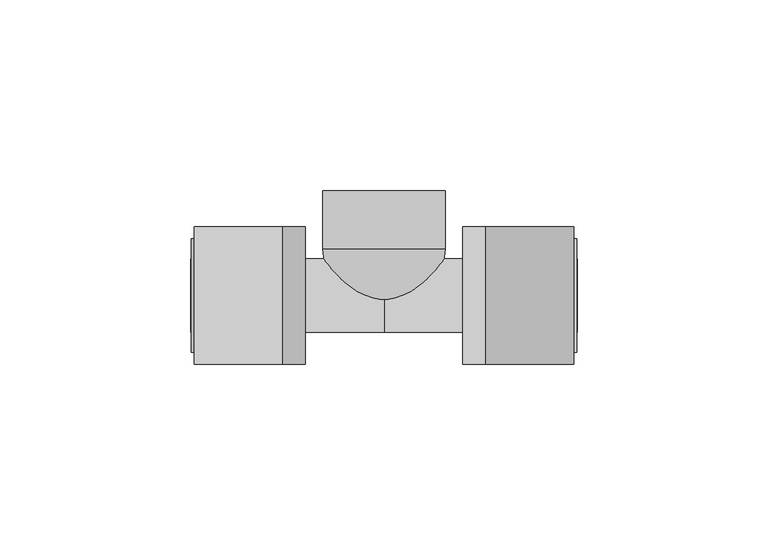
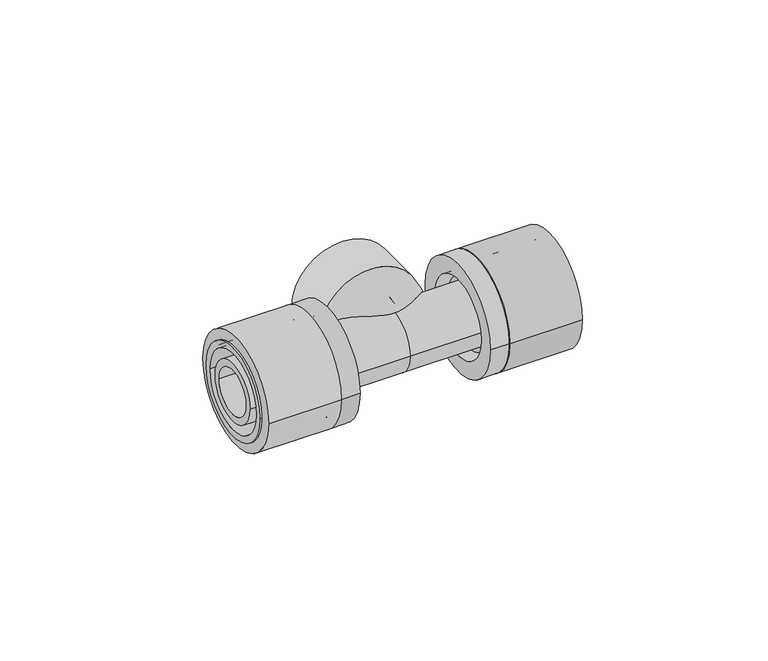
"""IFC4 building model written with IfcOpenShell, lengths in millimetres: pipe fitting geometry, FASTLOC_T-piece internal thread EX+ : FSL T thread EX+ AT."""

import ifcopenshell
import ifcopenshell.guid

model = None  # the IFC model being written
_history = None  # IfcOwnerHistory: only IFC2X3 demands one
_inside = {}  # id of a spatial element -> (the spatial element, [elements in it])
_under = {}  # id of a project, library or spatial element -> (it, [spatial elements below it])
_declared = {}  # id of a project -> (the project, [libraries it declares])
_typed = {}  # id of a type object -> (the type object, [elements of that type])
_made_of = {}  # id of a material, layer set ... -> (it, [elements and type objects made of it])


def new_model(schema):
    """Start an empty IFC model of exactly this schema.

    Asked for "IFC4X3", IfcOpenShell would pick the latest addendum, in which some entities
    have other attributes; the version numbers below select the first issue.
    IFC2X3 requires an IfcOwnerHistory on every rooted entity: one is made here for all.
    """
    global model, _history
    if schema == "IFC4X3":
        model = ifcopenshell.file(schema_version=(4, 3, 0, 0))
    else:
        model = ifcopenshell.file(schema=schema)
    _inside.clear()
    _under.clear()
    _declared.clear()
    _typed.clear()
    _made_of.clear()
    _history = None
    if model.schema == "IFC2X3":
        org = make("IfcOrganization", Name="unknown")
        user = make(
            "IfcPersonAndOrganization",
            ThePerson=make("IfcPerson", FamilyName="unknown"),
            TheOrganization=org,
        )
        app = make(
            "IfcApplication",
            ApplicationDeveloper=org,
            Version="unknown",
            ApplicationFullName="unknown",
            ApplicationIdentifier="unknown",
        )
        _history = make(
            "IfcOwnerHistory",
            OwningUser=user,
            OwningApplication=app,
            ChangeAction="ADDED",
            CreationDate=0,
        )
    return model


def make(cls, **values):
    """One entity of the class cls with the attributes given. An attribute that is None is left unset."""
    return model.create_entity(
        cls, **{name: value for name, value in values.items() if value is not None}
    )


def rooted(cls, **values):
    """An entity with a GlobalId (a new one), such as an element, a storey or a relation."""
    return make(cls, GlobalId=ifcopenshell.guid.new(), OwnerHistory=_history, **values)


def si_unit(unit_type, name, prefix=None):
    """IfcSIUnit, for example si_unit("LENGTHUNIT", "METRE", prefix="MILLI")."""
    return make("IfcSIUnit", UnitType=unit_type, Prefix=prefix, Name=name)


def assignment(units):
    """IfcUnitAssignment: the units of a project."""
    return None if units is None else make("IfcUnitAssignment", Units=units)


def point(xyz):
    """IfcCartesianPoint."""
    return None if xyz is None else make("IfcCartesianPoint", Coordinates=xyz)


def direction(xyz):
    """IfcDirection."""
    return None if xyz is None else make("IfcDirection", DirectionRatios=xyz)


def frame(location, z_axis=None, x_axis=None):
    """IfcAxis2Placement3D, a coordinate frame: its origin and axes. An axis left out is left unset."""
    return make(
        "IfcAxis2Placement3D",
        Location=point(location),
        Axis=direction(z_axis),
        RefDirection=direction(x_axis),
    )


def frame_2d(location, x_axis=None):
    """IfcAxis2Placement2D, a coordinate frame in the plane: its origin and x axis."""
    return make(
        "IfcAxis2Placement2D", Location=point(location), RefDirection=direction(x_axis)
    )


def origin():
    """The frame at (0, 0, 0) with its axes left unset."""
    return frame((0.0, 0.0, 0.0))


def origin_2d():
    """The frame at (0, 0) in the plane with its x axis left unset."""
    return frame_2d((0.0, 0.0))


def place(relative_to, where):
    """IfcLocalPlacement: puts the frame where relative to a parent placement (None: the world)."""
    return make(
        "IfcLocalPlacement", PlacementRelTo=relative_to, RelativePlacement=where
    )


def context(
    kind, dimensions, precision=None, world=None, true_north=None, identifier=None
):
    """IfcGeometricRepresentationContext, for example the 3D "Model" context."""
    return make(
        "IfcGeometricRepresentationContext",
        ContextIdentifier=identifier,
        ContextType=kind,
        CoordinateSpaceDimension=dimensions,
        Precision=precision,
        WorldCoordinateSystem=world,
        TrueNorth=true_north,
    )


def project(units=None, contexts=None):
    """IfcProject with its units and contexts."""
    return rooted(
        "IfcProject",
        Name="project",
        RepresentationContexts=contexts,
        UnitsInContext=assignment(units),
    )


def spatial(cls, under=None, at=None, **own):
    """A site, building, storey or space (cls), placed at a placement, below another one or the project."""
    s = rooted(cls, ObjectPlacement=at, **own)
    if under is not None:
        _under.setdefault(under.id(), (under, []))[1].append(s)
    return s


def polyline(points):
    """IfcPolyline through the points."""
    return make("IfcPolyline", Points=[point(p) for p in points])


def circle_curve(where, radius):
    """IfcCircle in the frame where."""
    return make("IfcCircle", Position=where, Radius=radius)


def ellipse_curve(where, semi_axis1, semi_axis2):
    """IfcEllipse in the frame where."""
    return make(
        "IfcEllipse", Position=where, SemiAxis1=semi_axis1, SemiAxis2=semi_axis2
    )


def trimmed(basis, trim1, trim2, sense, master):
    """IfcTrimmedCurve: the piece of a basis curve between two trims."""
    return make(
        "IfcTrimmedCurve",
        BasisCurve=basis,
        Trim1=trim1,
        Trim2=trim2,
        SenseAgreement=sense,
        MasterRepresentation=master,
    )


def segment(curve, same_sense, transition):
    """IfcCompositeCurveSegment."""
    return make(
        "IfcCompositeCurveSegment",
        Transition=transition,
        SameSense=same_sense,
        ParentCurve=curve,
    )


def composite_curve(segments, self_intersect=None):
    """IfcCompositeCurve: segments joined end to end."""
    return make("IfcCompositeCurve", Segments=segments, SelfIntersect=self_intersect)


def outline(outer, holes=None, kind="AREA"):
    """IfcArbitraryClosedProfileDef: a profile drawn as a closed curve; with holes, ...WithVoids."""
    if holes is None:
        return make("IfcArbitraryClosedProfileDef", ProfileType=kind, OuterCurve=outer)
    return make(
        "IfcArbitraryProfileDefWithVoids",
        ProfileType=kind,
        OuterCurve=outer,
        InnerCurves=holes,
    )


def extrude(swept, where, along, depth):
    """IfcExtrudedAreaSolid: the profile swept, set in the frame where, extruded along a direction by depth."""
    return make(
        "IfcExtrudedAreaSolid",
        SweptArea=swept,
        Position=where,
        ExtrudedDirection=direction(along),
        Depth=depth,
    )


def shape(context_of_items, identifier, shape_type, items):
    """IfcShapeRepresentation: the items that make up one representation, for example the "Body"."""
    return make(
        "IfcShapeRepresentation",
        ContextOfItems=context_of_items,
        RepresentationIdentifier=identifier,
        RepresentationType=shape_type,
        Items=items,
    )


def source(mapping_origin, context_of_items, identifier, shape_type, items):
    """IfcRepresentationMap: a shape defined once, which mapped items show again and again."""
    return make(
        "IfcRepresentationMap",
        MappingOrigin=mapping_origin,
        MappedRepresentation=shape(context_of_items, identifier, shape_type, items),
    )


def transform(
    local_origin,
    x_axis=None,
    y_axis=None,
    z_axis=None,
    scale=None,
    scale2=None,
    scale3=None,
    uniform=True,
):
    """IfcCartesianTransformationOperator3D, or its non-uniform kind. x_axis, y_axis, z_axis: its Axis1, 2, 3."""
    if uniform:
        return make(
            "IfcCartesianTransformationOperator3D",
            Axis1=direction(x_axis),
            Axis2=direction(y_axis),
            LocalOrigin=point(local_origin),
            Scale=scale,
            Axis3=direction(z_axis),
        )
    return make(
        "IfcCartesianTransformationOperator3DnonUniform",
        Axis1=direction(x_axis),
        Axis2=direction(y_axis),
        LocalOrigin=point(local_origin),
        Scale=scale,
        Axis3=direction(z_axis),
        Scale2=scale2,
        Scale3=scale3,
    )


def mapped(mapping_source, mapping_target):
    """IfcMappedItem: shows the shape of a source again, moved by a transform."""
    return make(
        "IfcMappedItem", MappingSource=mapping_source, MappingTarget=mapping_target
    )


def made_of(thing, what):
    """Note that an element or type object is made of a material, layer set ...; save() writes the relation."""
    if what is not None:
        _made_of.setdefault(what.id(), (what, []))[1].append(thing)
    return thing


def element(
    cls,
    number,
    at=None,
    inside=None,
    cuts=None,
    type_object=None,
    material=None,
    context=None,
    identifier="Body",
    shape_type=None,
    held_by="IfcProductDefinitionShape",
    body=None,
    shapes=None,
    **own,
):
    """One element of the class cls, such as IfcWall. Its Tag is "e" and its number.

    at: its placement. inside: the storey or other place that contains it. cuts: it is an
    opening in that element (IfcRelVoidsElement). A single representation is given by context,
    identifier, shape_type and body (its items); several are given by shapes. held_by: the class
    of the entity that holds the representations. save() writes the other relations.
    """
    e = rooted(cls, Tag="e%d" % number, ObjectPlacement=at, **own)
    if body is not None:
        shapes = [shape(context, identifier, shape_type, body)]
    if shapes is not None:
        e.Representation = make(held_by, Representations=shapes)
    if inside is not None:
        _inside.setdefault(inside.id(), (inside, []))[1].append(e)
    if cuts is not None:
        rooted(
            "IfcRelVoidsElement", RelatingBuildingElement=cuts, RelatedOpeningElement=e
        )
    if type_object is not None:
        _typed.setdefault(type_object.id(), (type_object, []))[1].append(e)
    return made_of(e, material)


def aggregate(whole, parts):
    """IfcRelAggregates: a whole, such as a stair, and the parts it consists of."""
    return rooted("IfcRelAggregates", RelatingObject=whole, RelatedObjects=parts)


def save(model, path):
    """Write the relations noted so far, then the file.

    IfcRelAggregates (storeys below a building ...), IfcRelContainedInSpatialStructure (elements
    in a storey), IfcRelDefinesByType, IfcRelAssociatesMaterial and IfcRelDeclares: one each for
    every whole, place, type object, material and project.
    """
    for whole, parts in _under.values():
        aggregate(whole, parts)
    for where, things in _inside.values():
        rooted(
            "IfcRelContainedInSpatialStructure",
            RelatedElements=things,
            RelatingStructure=where,
        )
    for kind, things in _typed.values():
        rooted("IfcRelDefinesByType", RelatedObjects=things, RelatingType=kind)
    for what, things in _made_of.values():
        rooted("IfcRelAssociatesMaterial", RelatedObjects=things, RelatingMaterial=what)
    for by, libraries in _declared.values():
        rooted("IfcRelDeclares", RelatingContext=by, RelatedDefinitions=libraries)
    model.write(path)


def plane_surface(at):
    """IfcPlane: the flat surface through the origin of the frame at, square to its z axis."""
    return make("IfcPlane", Position=at)


def cylinder_surface(at, radius):
    """IfcCylindricalSurface: all points at the distance radius from the z axis of the frame at."""
    return make("IfcCylindricalSurface", Position=at, Radius=radius)


def revolved_surface(curve, axis_point, axis_direction):
    """IfcSurfaceOfRevolution: the curve turned about the line through axis_point along axis_direction."""
    return make(
        "IfcSurfaceOfRevolution",
        SweptCurve=make("IfcArbitraryOpenProfileDef", ProfileType="CURVE", Curve=curve),
        AxisPosition=make("IfcAxis1Placement", Location=point(axis_point), Axis=direction(axis_direction)),
    )


def advanced_brep(points, edges, surfaces, faces):
    """IfcAdvancedBrep: a solid bounded by faces that lie on surfaces and meet in shared edges.

    An edge is (start, end): straight between two places in points (the first is 0);
    or (start, end, curve); or (start, end, curve, False) where it runs against its curve.
    A face is (place in surfaces, loops), or (place, loops, False) where it looks against
    its surface's normal. A loop lists edges by number (the first is 1), with a minus sign
    where the edge is run from its end to its start. The first loop is the outer one.
    """
    corners = [point(p) for p in points]
    vertices = [make("IfcVertexPoint", VertexGeometry=c) for c in corners]
    made = []
    for start, end, *more in edges:
        made.append(
            make(
                "IfcEdgeCurve",
                EdgeStart=vertices[start],
                EdgeEnd=vertices[end],
                EdgeGeometry=more[0] if more else make("IfcPolyline", Points=[corners[start], corners[end]]),
                SameSense=more[1] if len(more) > 1 else True,
            )
        )
    hull = []
    for where, loops, *sense in faces:
        bounds = []
        for j, loop in enumerate(loops):
            ring = [make("IfcOrientedEdge", EdgeElement=made[abs(k) - 1], Orientation=k > 0) for k in loop]
            bounds.append(
                make(
                    "IfcFaceOuterBound" if j == 0 else "IfcFaceBound",
                    Bound=make("IfcEdgeLoop", EdgeList=ring),
                    Orientation=True,
                )
            )
        hull.append(make("IfcAdvancedFace", Bounds=bounds, FaceSurface=surfaces[where], SameSense=sense[0] if sense else True))
    return make("IfcAdvancedBrep", Outer=make("IfcClosedShell", CfsFaces=hull))


def pipe_fitting_688652c5(model_context):
    return source(origin(), model_context, "Body", "SolidModel", [
        extrude(outline(composite_curve([segment(trimmed(circle_curve(origin_2d(), 18.0), [point((-18.0, 0.0))], [point((18.0, 0.0))], False, "CARTESIAN"), True, "CONTINUOUS"), segment(trimmed(circle_curve(origin_2d(), 18.0), [point((18.0, 0.0))], [point((-18.0, 0.0))], False, "CARTESIAN"), True, "CONTINUOUS")], self_intersect=False), holes=[composite_curve([segment(trimmed(circle_curve(origin_2d(), 13.5), [point((-13.5, 0.0))], [point((13.5, 0.0))], True, "CARTESIAN"), True, "CONTINUOUS"), segment(trimmed(circle_curve(origin_2d(), 13.5), [point((13.5, 0.0))], [point((-13.5, 0.0))], True, "CARTESIAN"), True, "CONTINUOUS")], self_intersect=False)]), frame((26.7, 0.0, 0.0), z_axis=(1.0, 0.0, 0.0), x_axis=(0.0, 1.0, 0.0)), (0.0, 0.0, 1.0), 23.0),
        advanced_brep(
        [(26.7, 18.0, 0.0), (26.7, -18.0, 0.0), (20.7, -18.0, 0.0), (20.7, 18.0, 0.0), (50.5, 14.85, 0.0), (50.5, -14.85, 0.0), (26.7, -14.85, 0.0), (26.7, 14.85, 0.0), (20.7, 12.65, 0.0), (20.7, -12.65, 0.0), (50.5, -12.65, 0.0), (50.5, 12.65, 0.0)],
        [
            (0, 1, circle_curve(frame((26.7, 0.0, 0.0), z_axis=(-1.0, 0.0, 0.0), x_axis=(0.0, -1.0, 0.0)), 18.0)),
            (1, 2),
            (2, 3, circle_curve(frame((20.7, 0.0, 0.0), z_axis=(1.0, 0.0, 0.0), x_axis=(0.0, -1.0, 0.0)), 18.0)),
            (3, 0),
            (4, 5, circle_curve(frame((50.5, 0.0, 0.0), z_axis=(-1.0, 0.0, 0.0), x_axis=(0.0, -1.0, 0.0)), 14.85)),
            (5, 6),
            (6, 7, circle_curve(frame((26.7, 0.0, 0.0), z_axis=(1.0, 0.0, 0.0), x_axis=(0.0, -1.0, 0.0)), 14.85)),
            (7, 4),
            (8, 9, circle_curve(frame((20.7, 0.0, 0.0), z_axis=(-1.0, 0.0, 0.0), x_axis=(0.0, -1.0, 0.0)), 12.65)),
            (9, 10),
            (10, 11, circle_curve(frame((50.5, 0.0, 0.0), z_axis=(1.0, 0.0, 0.0), x_axis=(0.0, -1.0, 0.0)), 12.65)),
            (11, 8),
            (1, 0, circle_curve(frame((26.7, 0.0, 0.0), z_axis=(-1.0, 0.0, 0.0), x_axis=(0.0, 1.0, 0.0)), 18.0)),
            (3, 2, circle_curve(frame((20.7, 0.0, 0.0), z_axis=(1.0, 0.0, 0.0), x_axis=(0.0, 1.0, 0.0)), 18.0)),
            (6, 7, circle_curve(frame((26.7, 0.0, 0.0), z_axis=(-1.0, 0.0, 0.0), x_axis=(0.0, 1.0, 0.0)), 14.85)),
            (5, 4, circle_curve(frame((50.5, 0.0, 0.0), z_axis=(-1.0, 0.0, 0.0), x_axis=(0.0, 1.0, 0.0)), 14.85)),
            (10, 11, circle_curve(frame((50.5, 0.0, 0.0), z_axis=(-1.0, 0.0, 0.0), x_axis=(0.0, 1.0, 0.0)), 12.65)),
            (9, 8, circle_curve(frame((20.7, 0.0, 0.0), z_axis=(-1.0, 0.0, 0.0), x_axis=(0.0, 1.0, 0.0)), 12.65)),
        ],
        [
            cylinder_surface(frame((20.7, 0.0, 0.0), z_axis=(1.0, 0.0, 0.0), x_axis=(0.0, -1.0, 0.0)), 18.0),
            cylinder_surface(frame((20.7, 0.0, 0.0), z_axis=(1.0, 0.0, 0.0), x_axis=(0.0, -1.0, 0.0)), 14.85),
            revolved_surface(polyline([(50.5, -12.65, 0.0), (20.7, -12.65, 0.0)]), (20.7, 0.0, 0.0), (1.0, 0.0, 0.0)),
            cylinder_surface(frame((20.7, 0.0, 0.0), z_axis=(1.0, 0.0, 0.0), x_axis=(0.0, 1.0, 0.0)), 18.0),
            plane_surface(frame((26.7, 0.0, 0.0), z_axis=(1.0, 0.0, 0.0), x_axis=(0.0, 1.0, 0.0))),
            cylinder_surface(frame((20.7, 0.0, 0.0), z_axis=(1.0, 0.0, 0.0), x_axis=(0.0, 1.0, 0.0)), 14.85),
            plane_surface(frame((50.5, 0.0, 0.0), z_axis=(1.0, 0.0, 0.0), x_axis=(0.0, 1.0, 0.0))),
            revolved_surface(polyline([(50.5, 12.65, 0.0), (20.7, 12.65, 0.0)]), (20.7, 0.0, 0.0), (1.0, 0.0, 0.0)),
            plane_surface(frame((20.7, 0.0, 0.0), z_axis=(-1.0, 0.0, 0.0), x_axis=(0.0, 1.0, 0.0))),
        ],
        [
            (0, [[1, 2, 3, 4]]),
            (1, [[5, 6, 7, 8]]),
            (2, [[9, 10, 11, 12]]),
            (3, [[13, -4, 14, -2]]),
            (4, [[-13, -1], [15, -7]]),
            (5, [[16, -8, -15, -6]]),
            (6, [[-16, -5], [17, -11]]),
            (7, [[18, -12, -17, -10]]),
            (8, [[-14, -3], [-18, -9]]),
        ],
    ),
        extrude(outline(composite_curve([segment(trimmed(circle_curve(origin_2d(), 18.0), [point((18.0, 0.0))], [point((-18.0, 0.0))], False, "CARTESIAN"), True, "CONTINUOUS"), segment(trimmed(circle_curve(origin_2d(), 18.0), [point((-18.0, 0.0))], [point((18.0, 0.0))], False, "CARTESIAN"), True, "CONTINUOUS")], self_intersect=False), holes=[composite_curve([segment(trimmed(circle_curve(origin_2d(), 13.5), [point((13.5, 0.0))], [point((-13.5, 0.0))], True, "CARTESIAN"), True, "CONTINUOUS"), segment(trimmed(circle_curve(origin_2d(), 13.5), [point((-13.5, 0.0))], [point((13.5, 0.0))], True, "CARTESIAN"), True, "CONTINUOUS")], self_intersect=False)]), frame((-49.7, 0.0, 0.0), z_axis=(1.0, 0.0, 0.0), x_axis=(0.0, 1.0, 0.0)), (0.0, 0.0, 1.0), 23.0),
        advanced_brep(
        [(-26.7, -18.0, 0.0), (-26.7, 18.0, 0.0), (-20.7, 18.0, 0.0), (-20.7, -18.0, 0.0), (-50.5, -14.85, 0.0), (-50.5, 14.85, 0.0), (-26.7, 14.85, 0.0), (-26.7, -14.85, 0.0), (-20.7, -12.65, 0.0), (-20.7, 12.65, 0.0), (-50.5, 12.65, 0.0), (-50.5, -12.65, 0.0)],
        [
            (0, 1, circle_curve(frame((-26.7, 0.0, 0.0), z_axis=(1.0, 0.0, 0.0), x_axis=(0.0, 1.0, 0.0)), 18.0)),
            (1, 2),
            (2, 3, circle_curve(frame((-20.7, 0.0, 0.0), z_axis=(-1.0, 0.0, 0.0), x_axis=(0.0, 1.0, 0.0)), 18.0)),
            (3, 0),
            (4, 5, circle_curve(frame((-50.5, 0.0, 0.0), z_axis=(1.0, 0.0, 0.0), x_axis=(0.0, 1.0, 0.0)), 14.85)),
            (5, 6),
            (6, 7, circle_curve(frame((-26.7, 0.0, 0.0), z_axis=(-1.0, 0.0, 0.0), x_axis=(0.0, 1.0, 0.0)), 14.85)),
            (7, 4),
            (8, 9, circle_curve(frame((-20.7, 0.0, 0.0), z_axis=(1.0, 0.0, 0.0), x_axis=(0.0, 1.0, 0.0)), 12.65)),
            (9, 10),
            (10, 11, circle_curve(frame((-50.5, 0.0, 0.0), z_axis=(-1.0, 0.0, 0.0), x_axis=(0.0, 1.0, 0.0)), 12.65)),
            (11, 8),
            (1, 0, circle_curve(frame((-26.7, 0.0, 0.0), z_axis=(1.0, 0.0, 0.0), x_axis=(0.0, -1.0, 0.0)), 18.0)),
            (3, 2, circle_curve(frame((-20.7, 0.0, 0.0), z_axis=(-1.0, 0.0, 0.0), x_axis=(0.0, -1.0, 0.0)), 18.0)),
            (6, 7, circle_curve(frame((-26.7, 0.0, 0.0), z_axis=(1.0, 0.0, 0.0), x_axis=(0.0, -1.0, 0.0)), 14.85)),
            (5, 4, circle_curve(frame((-50.5, 0.0, 0.0), z_axis=(1.0, 0.0, 0.0), x_axis=(0.0, -1.0, 0.0)), 14.85)),
            (10, 11, circle_curve(frame((-50.5, 0.0, 0.0), z_axis=(1.0, 0.0, 0.0), x_axis=(0.0, -1.0, 0.0)), 12.65)),
            (9, 8, circle_curve(frame((-20.7, 0.0, 0.0), z_axis=(1.0, 0.0, 0.0), x_axis=(0.0, -1.0, 0.0)), 12.65)),
        ],
        [
            cylinder_surface(frame((-20.7, 0.0, 0.0), z_axis=(-1.0, 0.0, 0.0), x_axis=(0.0, 1.0, 0.0)), 18.0),
            cylinder_surface(frame((-20.7, 0.0, 0.0), z_axis=(-1.0, 0.0, 0.0), x_axis=(0.0, 1.0, 0.0)), 14.85),
            revolved_surface(polyline([(-50.5, 12.65, 0.0), (-20.7, 12.65, 0.0)]), (-20.7, 0.0, 0.0), (-1.0, 0.0, 0.0)),
            cylinder_surface(frame((-20.7, 0.0, 0.0), z_axis=(-1.0, 0.0, 0.0), x_axis=(0.0, -1.0, 0.0)), 18.0),
            plane_surface(frame((-26.7, 0.0, 0.0), z_axis=(-1.0, 0.0, 0.0), x_axis=(0.0, -1.0, 0.0))),
            cylinder_surface(frame((-20.7, 0.0, 0.0), z_axis=(-1.0, 0.0, 0.0), x_axis=(0.0, -1.0, 0.0)), 14.85),
            plane_surface(frame((-50.5, 0.0, 0.0), z_axis=(-1.0, 0.0, 0.0), x_axis=(0.0, -1.0, 0.0))),
            revolved_surface(polyline([(-50.5, -12.65, 0.0), (-20.7, -12.65, 0.0)]), (-20.7, 0.0, 0.0), (-1.0, 0.0, 0.0)),
            plane_surface(frame((-20.7, 0.0, 0.0), z_axis=(1.0, 0.0, 0.0), x_axis=(0.0, -1.0, 0.0))),
        ],
        [
            (0, [[1, 2, 3, 4]]),
            (1, [[5, 6, 7, 8]]),
            (2, [[9, 10, 11, 12]]),
            (3, [[13, -4, 14, -2]]),
            (4, [[-13, -1], [15, -7]]),
            (5, [[16, -8, -15, -6]]),
            (6, [[-16, -5], [17, -11]]),
            (7, [[18, -12, -17, -10]]),
            (8, [[-14, -3], [-18, -9]]),
        ],
    ),
        advanced_brep(
        [(0.5, -3.7921856, 0.0), (-0.5, -3.7921856, 0.0), (-16.0, 12.2, 0.0), (16.0, 12.2, 0.0), (0.5, 4.7166852, 0.0), (-0.5, 4.7166852, 0.0), (7.5, 12.2, 0.0), (-7.5, 12.2, 0.0), (7.5, 27.5, 0.0), (-7.5, 27.5, 0.0), (-16.0, 27.5, 0.0), (16.0, 27.5, 0.0)],
        [
            (0, 1, circle_curve(frame((0.0, -3.7921856, 0.0), z_axis=(0.0, 1.0, 0.0), x_axis=(-1.0, 0.0, 0.0)), 0.5)),
            (1, 2, circle_curve(frame((0.0, 12.2, 0.0), z_axis=(0.0, 0.0, -1.0), x_axis=(0.0, 1.0, 0.0)), 16.0)),
            (2, 3, circle_curve(frame((0.0, 12.2, 0.0), z_axis=(0.0, -1.0, 0.0), x_axis=(-1.0, 0.0, 0.0)), 16.0)),
            (3, 0, circle_curve(frame((0.0, 12.2, 0.0), z_axis=(0.0, 0.0, -1.0), x_axis=(0.0, 1.0, 0.0)), 16.0)),
            (4, 5, circle_curve(frame((0.0, 4.7166852, 0.0), z_axis=(0.0, 1.0, 0.0), x_axis=(-1.0, 0.0, 0.0)), 0.5)),
            (5, 1),
            (0, 4),
            (6, 7, circle_curve(frame((0.0, 12.2, 0.0), z_axis=(0.0, 1.0, 0.0), x_axis=(-1.0, 0.0, 0.0)), 7.5)),
            (7, 5, circle_curve(frame((0.0, 12.2, 0.0), z_axis=(0.0, 0.0, 1.0), x_axis=(0.0, 1.0, 0.0)), 7.5)),
            (4, 6, circle_curve(frame((0.0, 12.2, 0.0), z_axis=(0.0, 0.0, 1.0), x_axis=(0.0, 1.0, 0.0)), 7.5)),
            (8, 9, circle_curve(frame((0.0, 27.5, 0.0), z_axis=(0.0, 1.0, 0.0), x_axis=(-1.0, 0.0, 0.0)), 7.5)),
            (9, 7),
            (6, 8),
            (2, 10),
            (10, 11, circle_curve(frame((0.0, 27.5, 0.0), z_axis=(0.0, -1.0, 0.0), x_axis=(-1.0, 0.0, 0.0)), 16.0)),
            (11, 3),
            (1, 0, circle_curve(frame((0.0, -3.7921856, 0.0), z_axis=(0.0, 1.0, 0.0), x_axis=(1.0, 0.0, 0.0)), 0.5)),
            (3, 2, circle_curve(frame((0.0, 12.2, 0.0), z_axis=(0.0, -1.0, 0.0), x_axis=(1.0, 0.0, 0.0)), 16.0)),
            (5, 4, circle_curve(frame((0.0, 4.7166852, 0.0), z_axis=(0.0, 1.0, 0.0), x_axis=(1.0, 0.0, 0.0)), 0.5)),
            (7, 6, circle_curve(frame((0.0, 12.2, 0.0), z_axis=(0.0, 1.0, 0.0), x_axis=(1.0, 0.0, 0.0)), 7.5)),
            (9, 8, circle_curve(frame((0.0, 27.5, 0.0), z_axis=(0.0, 1.0, 0.0), x_axis=(1.0, 0.0, 0.0)), 7.5)),
            (10, 11, circle_curve(frame((0.0, 27.5, 0.0), z_axis=(0.0, 1.0, 0.0), x_axis=(1.0, 0.0, 0.0)), 16.0)),
        ],
        [
            revolved_surface(trimmed(ellipse_curve(frame((0.0, 12.2, 0.0), z_axis=(0.0, 0.0, 1.0), x_axis=(0.0, 1.0, 0.0)), 16.0, 16.0), [point((-16.0, 12.2, 0.0))], [point((-0.5, -3.7921856, 0.0))], True, "CARTESIAN"), (0.0, 0.0, 0.0), (0.0, -1.0, 0.0)),
            revolved_surface(polyline([(-0.5, -3.7921856, 0.0), (-0.5, 4.7166852, 0.0)]), (0.0, 0.0, 0.0), (0.0, -1.0, 0.0)),
            revolved_surface(trimmed(ellipse_curve(frame((0.0, 12.2, 0.0), z_axis=(0.0, 0.0, -1.0), x_axis=(0.0, 1.0, 0.0)), 7.5, 7.5), [point((-0.5, 4.7166852, 0.0))], [point((-7.5, 12.2, 0.0))], True, "CARTESIAN"), (0.0, 0.0, 0.0), (0.0, -1.0, 0.0)),
            revolved_surface(polyline([(-7.5, 12.2, 0.0), (-7.5, 27.5, 0.0)]), (0.0, 0.0, 0.0), (0.0, -1.0, 0.0)),
            cylinder_surface(frame((0.0, 0.0, 0.0), z_axis=(0.0, -1.0, 0.0), x_axis=(-1.0, 0.0, 0.0)), 16.0),
            revolved_surface(trimmed(ellipse_curve(frame((0.0, 12.2, 0.0), z_axis=(0.0, 0.0, -1.0), x_axis=(0.0, 1.0, 0.0)), 16.0, 16.0), [point((16.0, 12.2, 0.0))], [point((0.5, -3.7921856, 0.0))], True, "CARTESIAN"), (0.0, 0.0, 0.0), (0.0, -1.0, 0.0)),
            revolved_surface(polyline([(0.5, -3.7921856, 0.0), (0.5, 4.7166852, 0.0)]), (0.0, 0.0, 0.0), (0.0, -1.0, 0.0)),
            revolved_surface(trimmed(ellipse_curve(frame((0.0, 12.2, 0.0), z_axis=(0.0, 0.0, 1.0), x_axis=(0.0, 1.0, 0.0)), 7.5, 7.5), [point((0.5, 4.7166852, 0.0))], [point((7.5, 12.2, 0.0))], True, "CARTESIAN"), (0.0, 0.0, 0.0), (0.0, -1.0, 0.0)),
            revolved_surface(polyline([(7.5, 12.2, 0.0), (7.5, 27.5, 0.0)]), (0.0, 0.0, 0.0), (0.0, -1.0, 0.0)),
            plane_surface(frame((0.0, 27.5, 0.0), z_axis=(0.0, 1.0, 0.0), x_axis=(1.0, 0.0, 0.0))),
            cylinder_surface(frame((0.0, 0.0, 0.0), z_axis=(0.0, -1.0, 0.0), x_axis=(1.0, 0.0, 0.0)), 16.0),
        ],
        [
            (0, [[1, 2, 3, 4]]),
            (1, [[5, 6, -1, 7]]),
            (2, [[8, 9, -5, 10]]),
            (3, [[11, 12, -8, 13]]),
            (4, [[-3, 14, 15, 16]]),
            (5, [[17, -4, 18, -2]]),
            (6, [[19, -7, -17, -6]]),
            (7, [[20, -10, -19, -9]]),
            (8, [[21, -13, -20, -12]]),
            (9, [[22, -15], [-21, -11]]),
            (10, [[-18, -16, -22, -14]]),
        ],
    ),
        advanced_brep(
        [(26.7, 11.1, 0.0), (26.7, -11.1, 0.0), (23.9, -11.1, 0.0), (23.9, 11.1, 0.0), (50.7, 9.6, 0.0), (50.7, -9.6, 0.0), (26.7, -9.6, 0.0), (26.7, 9.6, 0.0), (-50.7, 7.35, 0.0), (-50.7, -7.35, 0.0), (50.7, -7.35, 0.0), (50.7, 7.35, 0.0), (-26.7, 9.6, 0.0), (-26.7, -9.6, 0.0), (-50.7, -9.6, 0.0), (-50.7, 9.6, 0.0), (-23.9, 11.1, 0.0), (-23.9, -11.1, 0.0), (-26.7, -11.1, 0.0), (-26.7, 11.1, 0.0), (0.0, 9.6, 0.0), (0.0, -9.6, 0.0), (-23.9, -9.6, 0.0), (-23.9, 9.6, 0.0), (23.9, 9.6, 0.0), (23.9, -9.6, 0.0)],
        [
            (0, 1, circle_curve(frame((26.7, 0.0, 0.0), z_axis=(-1.0, 0.0, 0.0), x_axis=(0.0, -1.0, 0.0)), 11.1)),
            (1, 2),
            (2, 3, circle_curve(frame((23.9, 0.0, 0.0), z_axis=(1.0, 0.0, 0.0), x_axis=(0.0, -1.0, 0.0)), 11.1)),
            (3, 0),
            (4, 5, circle_curve(frame((50.7, 0.0, 0.0), z_axis=(-1.0, 0.0, 0.0), x_axis=(0.0, -1.0, 0.0)), 9.6)),
            (5, 6),
            (6, 7, circle_curve(frame((26.7, 0.0, 0.0), z_axis=(1.0, 0.0, 0.0), x_axis=(0.0, -1.0, 0.0)), 9.6)),
            (7, 4),
            (8, 9, circle_curve(frame((-50.7, 0.0, 0.0), z_axis=(-1.0, 0.0, 0.0), x_axis=(0.0, -1.0, 0.0)), 7.35)),
            (9, 10),
            (10, 11, circle_curve(frame((50.7, 0.0, 0.0), z_axis=(1.0, 0.0, 0.0), x_axis=(0.0, -1.0, 0.0)), 7.35)),
            (11, 8),
            (12, 13, circle_curve(frame((-26.7, 0.0, 0.0), z_axis=(-1.0, 0.0, 0.0), x_axis=(0.0, -1.0, 0.0)), 9.6)),
            (13, 14),
            (14, 15, circle_curve(frame((-50.7, 0.0, 0.0), z_axis=(1.0, 0.0, 0.0), x_axis=(0.0, -1.0, 0.0)), 9.6)),
            (15, 12),
            (16, 17, circle_curve(frame((-23.9, 0.0, 0.0), z_axis=(-1.0, 0.0, 0.0), x_axis=(0.0, -1.0, 0.0)), 11.1)),
            (17, 18),
            (18, 19, circle_curve(frame((-26.7, 0.0, 0.0), z_axis=(1.0, 0.0, 0.0), x_axis=(0.0, -1.0, 0.0)), 11.1)),
            (19, 16),
            (20, 21, circle_curve(frame((0.0, 0.0, 0.0), z_axis=(-1.0, 0.0, 0.0), x_axis=(0.0, -1.0, 0.0)), 9.6)),
            (21, 22),
            (22, 23, circle_curve(frame((-23.9, 0.0, 0.0), z_axis=(1.0, 0.0, 0.0), x_axis=(0.0, -1.0, 0.0)), 9.6)),
            (23, 20),
            (24, 25, circle_curve(frame((23.9, 0.0, 0.0), z_axis=(-1.0, 0.0, 0.0), x_axis=(0.0, -1.0, 0.0)), 9.6)),
            (25, 21),
            (20, 24),
            (1, 0, circle_curve(frame((26.7, 0.0, 0.0), z_axis=(-1.0, 0.0, 0.0), x_axis=(0.0, 1.0, 0.0)), 11.1)),
            (3, 2, circle_curve(frame((23.9, 0.0, 0.0), z_axis=(1.0, 0.0, 0.0), x_axis=(0.0, 1.0, 0.0)), 11.1)),
            (6, 7, circle_curve(frame((26.7, 0.0, 0.0), z_axis=(-1.0, 0.0, 0.0), x_axis=(0.0, 1.0, 0.0)), 9.6)),
            (5, 4, circle_curve(frame((50.7, 0.0, 0.0), z_axis=(-1.0, 0.0, 0.0), x_axis=(0.0, 1.0, 0.0)), 9.6)),
            (10, 11, circle_curve(frame((50.7, 0.0, 0.0), z_axis=(-1.0, 0.0, 0.0), x_axis=(0.0, 1.0, 0.0)), 7.35)),
            (9, 8, circle_curve(frame((-50.7, 0.0, 0.0), z_axis=(-1.0, 0.0, 0.0), x_axis=(0.0, 1.0, 0.0)), 7.35)),
            (14, 15, circle_curve(frame((-50.7, 0.0, 0.0), z_axis=(-1.0, 0.0, 0.0), x_axis=(0.0, 1.0, 0.0)), 9.6)),
            (13, 12, circle_curve(frame((-26.7, 0.0, 0.0), z_axis=(-1.0, 0.0, 0.0), x_axis=(0.0, 1.0, 0.0)), 9.6)),
            (18, 19, circle_curve(frame((-26.7, 0.0, 0.0), z_axis=(-1.0, 0.0, 0.0), x_axis=(0.0, 1.0, 0.0)), 11.1)),
            (17, 16, circle_curve(frame((-23.9, 0.0, 0.0), z_axis=(-1.0, 0.0, 0.0), x_axis=(0.0, 1.0, 0.0)), 11.1)),
            (22, 23, circle_curve(frame((-23.9, 0.0, 0.0), z_axis=(-1.0, 0.0, 0.0), x_axis=(0.0, 1.0, 0.0)), 9.6)),
            (21, 20, circle_curve(frame((0.0, 0.0, 0.0), z_axis=(-1.0, 0.0, 0.0), x_axis=(0.0, 1.0, 0.0)), 9.6)),
            (25, 24, circle_curve(frame((23.9, 0.0, 0.0), z_axis=(-1.0, 0.0, 0.0), x_axis=(0.0, 1.0, 0.0)), 9.6)),
        ],
        [
            cylinder_surface(frame((0.0, 0.0, 0.0), z_axis=(1.0, 0.0, 0.0), x_axis=(0.0, -1.0, 0.0)), 11.1),
            cylinder_surface(frame((0.0, 0.0, 0.0), z_axis=(1.0, 0.0, 0.0), x_axis=(0.0, -1.0, 0.0)), 9.6),
            revolved_surface(polyline([(50.7, -7.35, 0.0), (-50.7, -7.35, 0.0)]), (0.0, 0.0, 0.0), (1.0, 0.0, 0.0)),
            cylinder_surface(frame((0.0, 0.0, 0.0), z_axis=(1.0, 0.0, 0.0), x_axis=(0.0, 1.0, 0.0)), 11.1),
            plane_surface(frame((26.7, 0.0, 0.0), z_axis=(1.0, 0.0, 0.0), x_axis=(0.0, 1.0, 0.0))),
            cylinder_surface(frame((0.0, 0.0, 0.0), z_axis=(1.0, 0.0, 0.0), x_axis=(0.0, 1.0, 0.0)), 9.6),
            plane_surface(frame((50.7, 0.0, 0.0), z_axis=(1.0, 0.0, 0.0), x_axis=(0.0, 1.0, 0.0))),
            revolved_surface(polyline([(50.7, 7.35, 0.0), (-50.7, 7.35, 0.0)]), (0.0, 0.0, 0.0), (1.0, 0.0, 0.0)),
            plane_surface(frame((-50.7, 0.0, 0.0), z_axis=(-1.0, 0.0, 0.0), x_axis=(0.0, 1.0, 0.0))),
            plane_surface(frame((-26.7, 0.0, 0.0), z_axis=(-1.0, 0.0, 0.0), x_axis=(0.0, 1.0, 0.0))),
            plane_surface(frame((-23.9, 0.0, 0.0), z_axis=(1.0, 0.0, 0.0), x_axis=(0.0, 1.0, 0.0))),
            plane_surface(frame((23.9, 0.0, 0.0), z_axis=(-1.0, 0.0, 0.0), x_axis=(0.0, 1.0, 0.0))),
        ],
        [
            (0, [[1, 2, 3, 4]]),
            (1, [[5, 6, 7, 8]]),
            (2, [[9, 10, 11, 12]]),
            (1, [[13, 14, 15, 16]]),
            (0, [[17, 18, 19, 20]]),
            (1, [[21, 22, 23, 24]]),
            (1, [[25, 26, -21, 27]]),
            (3, [[28, -4, 29, -2]]),
            (4, [[-28, -1], [30, -7]]),
            (5, [[31, -8, -30, -6]]),
            (6, [[-31, -5], [32, -11]]),
            (7, [[33, -12, -32, -10]]),
            (8, [[34, -15], [-33, -9]]),
            (5, [[35, -16, -34, -14]]),
            (9, [[36, -19], [-35, -13]]),
            (3, [[37, -20, -36, -18]]),
            (10, [[-37, -17], [38, -23]]),
            (5, [[39, -24, -38, -22]]),
            (5, [[40, -27, -39, -26]]),
            (11, [[-29, -3], [-40, -25]]),
        ],
    ),
    ])


if __name__ == "__main__":
    model = new_model("IFC4")
    model_context = context("Model", 3, world=origin())
    ifc_project = project(units=[si_unit("LENGTHUNIT", "METRE", prefix="MILLI")], contexts=[model_context])
    site = spatial("IfcSite", under=ifc_project)
    building = spatial("IfcBuilding", under=site)
    placement = place(None, origin())
    pipe_fitting_shape = pipe_fitting_688652c5(model_context)
    element("IfcPipeFitting", 1, ObjectType="FASTLOC_T-piece internal thread EX+ : FSL T thread EX+ AT", at=placement, inside=building, context=model_context, shape_type="MappedRepresentation", body=[
        mapped(pipe_fitting_shape, transform((0.0, 0.0, 0.0), x_axis=(1.0, 0.0, 0.0), y_axis=(0.0, 1.0, 0.0), z_axis=(0.0, 0.0, 1.0))),
    ])
    save(model, "model.ifc")
